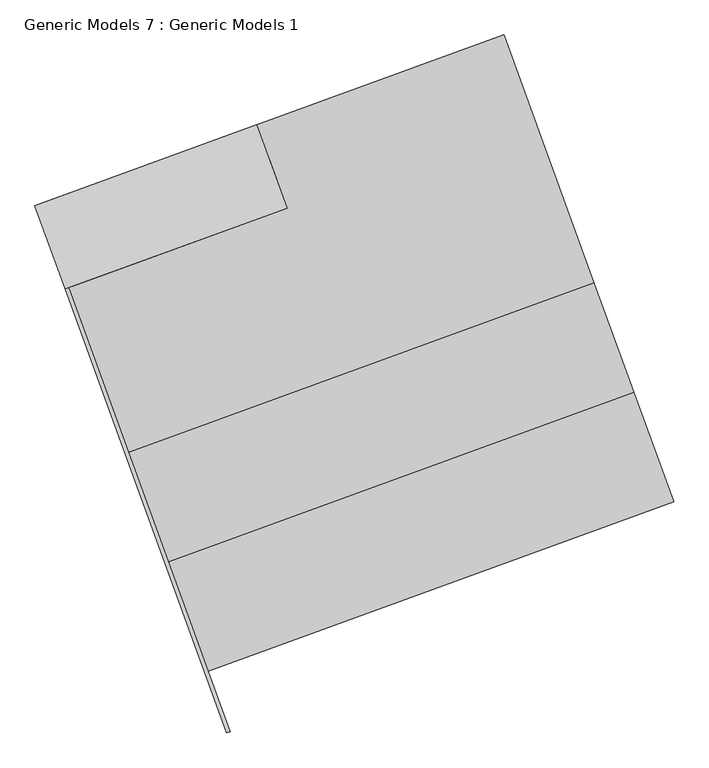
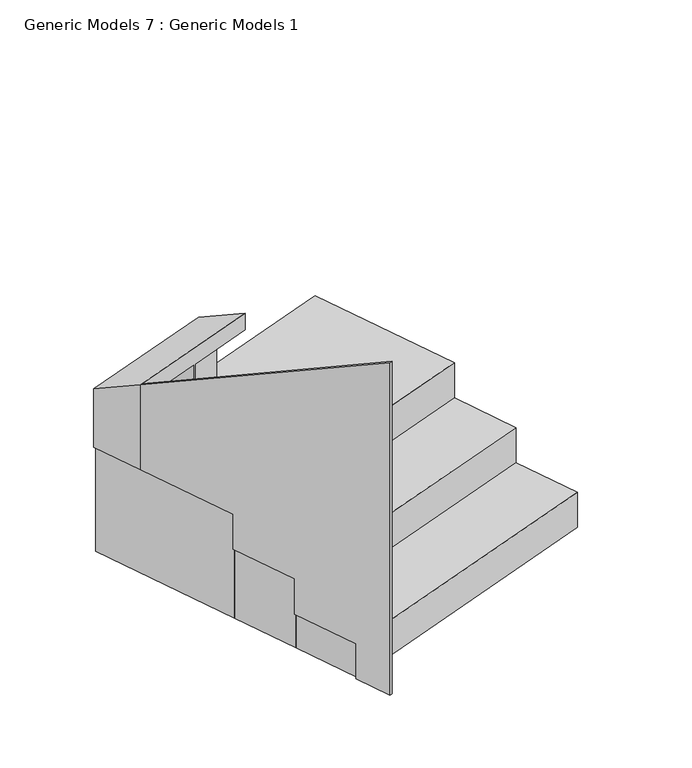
"""IFC4 building model written with IfcOpenShell, lengths in millimetres: proxy geometry, Generic Models 7 : Generic Models 1."""

from ifc_helpers import new_model, si_unit, frame, origin, place, context, project, spatial, polyline, outline, extrude, faceted_brep, source, transform, mapped, element, save


def generic_models_7_generic_models_1_be06a8ce(model_context):
    return source(origin(), model_context, "Body", "SolidModel", [
        extrude(outline(polyline([(0.0, 0.0), (0.0, -3029.9999968), (-2432.5933356, -1732.6168845), (-2432.5933356, -960.0), (-1530.6825137, -960.0), (-1530.6825137, -640.0), (-930.6825137, -640.0), (-930.6825137, -320.0), (-330.6825137, -320.0), (-330.6825137, 0.0), (0.0, 0.0)])), frame((35503.1596855, 9400.4036481, 2500.0), z_axis=(0.9396926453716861, 0.3420200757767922, 0.0), x_axis=(0.3420200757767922, -0.9396926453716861, 0.0)), (0.0, 0.0, 1.0), 20.0),
        faceted_brep([(35813.9447775, 12102.231835, 3460.0), (35657.9998027, 12530.6872276, 3460.0), (35657.9998027, 12530.6872276, 3989.4421153), (35813.9447775, 12102.231835, 4232.6168851), (35813.9447775, 12102.231835, 4080.0), (35718.1792119, 12365.3456228, 4080.0), (35718.1792119, 12365.3456228, 3480.0), (35813.9447775, 12102.231835, 3480.0), (34671.1639285, 11686.2937147, 3460.0), (34671.1639285, 11686.2937147, 4232.6168851), (34515.2189538, 12114.7491073, 3989.4421153), (34515.2189538, 12114.7491073, 3460.0), (35267.8687561, 11903.476462, 3480.0), (35267.8687561, 11903.476462, 4080.0), (35249.0749032, 11896.6360605, 4080.0), (35249.0749032, 11896.6360605, 3480.0), (34708.7516321, 11699.974517, 3480.0), (34708.7516321, 11699.974517, 4080.0), (35153.3093335, 12159.7498009, 4080.0), (34612.9860766, 11963.0882184, 4080.0), (34612.9860766, 11963.0882184, 3480.0), (35153.3093335, 12159.7498009, 3480.0), (35172.1031859, 12166.5902037, 4080.0), (35172.1031859, 12166.5902037, 3480.0)], [[[0, 1, 2, 3, 4, 5, 6, 7]], [[8, 9, 10, 11]], [[1, 0, 8, 11]], [[2, 1, 11, 10]], [[3, 2, 10, 9]], [[9, 8, 0, 7, 12, 13, 4, 3], [14, 15, 16, 17]], [[18, 19, 20, 21]], [[22, 23, 6, 5]], [[18, 21, 15, 14]], [[21, 20, 16, 15]], [[20, 19, 17, 16]], [[19, 18, 14, 17]], [[23, 12, 7, 6]], [[23, 22, 13, 12]], [[13, 22, 5, 4]]]),
        extrude(outline(polyline([(35408.8534998, 9717.9839844), (35203.6414138, 10281.7995569), (37600.6990552, 11154.2571882), (37805.9111412, 10590.4416157), (35408.8534998, 9717.9839844)])), frame((0.0, 0.0, 2500.0), z_axis=(0.0, 0.0, 1.0), x_axis=(1.0, 0.0, 0.0)), (0.0, 0.0, 1.0), 320.0),
        extrude(outline(polyline([(35203.6414138, 10281.7995569), (34998.4293278, 10845.6151294), (37395.4870097, 11718.0727754), (37600.6990957, 11154.2572029), (35203.6414138, 10281.7995569)])), frame((0.0, 0.0, 2500.0), z_axis=(0.0, 0.0, 1.0), x_axis=(1.0, 0.0, 0.0)), (0.0, 0.0, 1.0), 640.0),
        extrude(outline(polyline([(34998.4293278, 10845.6151294), (34533.9853419, 12121.6644931), (36931.043159, 12994.1221884), (37395.4871448, 11718.0728246), (34998.4293278, 10845.6151294)])), frame((0.0, 0.0, 2500.0), z_axis=(0.0, 0.0, 1.0), x_axis=(1.0, 0.0, 0.0)), (0.0, 0.0, 1.0), 960.0),
    ])


if __name__ == "__main__":
    model = new_model("IFC4")
    model_context = context("Model", 3, world=origin())
    ifc_project = project(units=[si_unit("LENGTHUNIT", "METRE", prefix="MILLI")], contexts=[model_context])
    site = spatial("IfcSite", under=ifc_project)
    building = spatial("IfcBuilding", under=site)
    placement = place(None, origin())
    generic_models_7_generic_models_1_shape = generic_models_7_generic_models_1_be06a8ce(model_context)
    element("IfcBuildingElementProxy", 1, Name="Generic Models 7 : Generic Models 1", ObjectType="Generic Models 7 : Generic Models 1", at=placement, inside=building, context=model_context, shape_type="MappedRepresentation", body=[
        mapped(generic_models_7_generic_models_1_shape, transform((0.0, 0.0, 0.0), x_axis=(1.0, 0.0, 0.0), y_axis=(0.0, 1.0, 0.0), z_axis=(0.0, 0.0, 1.0))),
    ])
    save(model, "model.ifc")
